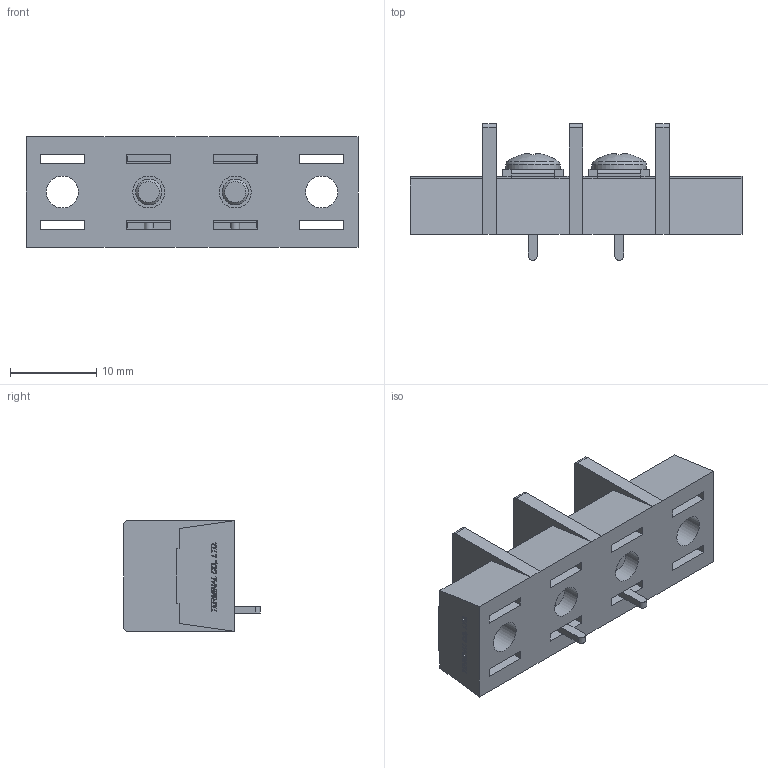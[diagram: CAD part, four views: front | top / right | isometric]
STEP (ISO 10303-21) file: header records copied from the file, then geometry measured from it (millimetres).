
FILE_DESCRIPTION(/* description */ ('Alibre Inc.'),/* implementation_level */ '2;1');
FILE_NAME(/* name */ 'export0',/* time_stamp */ '2015-10-22T19:45:18+09:00',/* author */ (''),/* organization */ (''),/* preprocessor_version */ 'ST-DEVELOPER v14',/* originating_system */ 'Alibre',/* authorisation */ '');
FILE_SCHEMA (('CONFIG_CONTROL_DESIGN'));
Length unit declared in the file: centimetre
Products named in the file (1): ID_1
Bounding box: 38.4 x 15.8 x 12.8 mm (x, y, z)
Volume: 3085.2 mm3; surface area: 3544 mm2
Topology: 1 solids, 35 shells, 974 faces, 2536 edges, 1682 vertices
Faces by surface type: plane 724, bspline 208, cylinder 26, cone 10, torus 4, sphere 2
Full cylindrical faces by diameter (mm): 3 x4, 3.7 x4, 4.6 x4, 6.3 x2
Entity records: 28641 total; most frequent: CARTESIAN_POINT 7029, ORIENTED_EDGE 5016, DIRECTION 2922, EDGE_CURVE 2508, VECTOR 1956, LINE 1956, VERTEX_POINT 1674, EDGE_LOOP 1084
